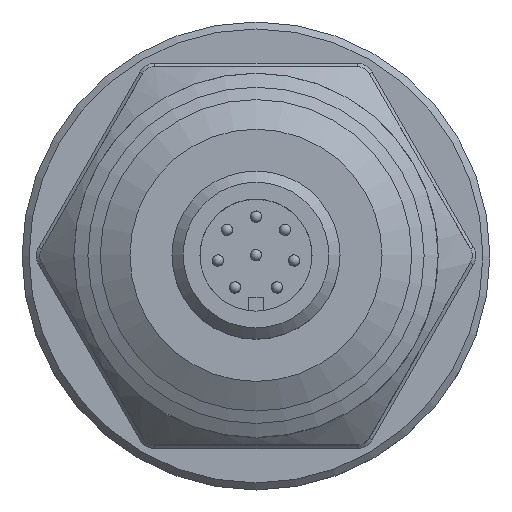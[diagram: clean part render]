
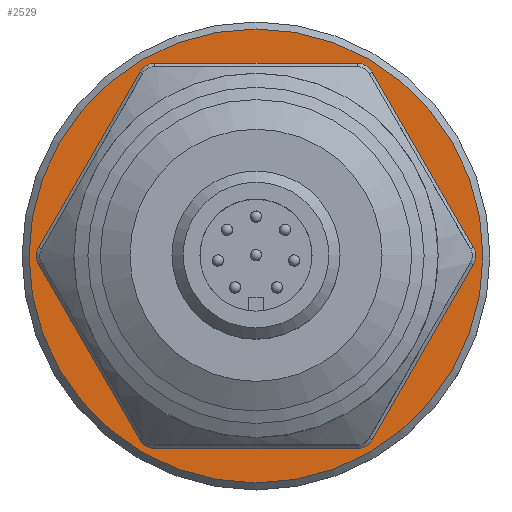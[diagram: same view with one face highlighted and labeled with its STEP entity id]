
A CAD part, top view. The second image highlights one B-rep face of the part: STEP entity #2529.
In plain terms, the highlighted planar face has unit normal (0, 0, 1).
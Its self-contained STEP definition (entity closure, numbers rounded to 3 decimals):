
#210=LINE('',#4559,#372);
#214=LINE('',#4569,#376);
#217=LINE('',#4577,#379);
#219=LINE('',#4583,#381);
#222=LINE('',#4591,#384);
#225=LINE('',#4599,#387);
#372=VECTOR('',#3414,1000.);
#376=VECTOR('',#3424,1000.);
#379=VECTOR('',#3433,1000.);
#381=VECTOR('',#3441,1000.);
#384=VECTOR('',#3450,1000.);
#387=VECTOR('',#3459,1000.);
#522=PLANE('',#2803);
#1051=ORIENTED_EDGE('',*,*,#1478,.F.);
#1052=ORIENTED_EDGE('',*,*,#1476,.T.);
#1053=ORIENTED_EDGE('',*,*,#1475,.F.);
#1054=ORIENTED_EDGE('',*,*,#1473,.T.);
#1055=ORIENTED_EDGE('',*,*,#1471,.F.);
#1056=ORIENTED_EDGE('',*,*,#1469,.T.);
#1057=ORIENTED_EDGE('',*,*,#1467,.F.);
#1058=ORIENTED_EDGE('',*,*,#1464,.T.);
#1059=ORIENTED_EDGE('',*,*,#1462,.F.);
#1060=ORIENTED_EDGE('',*,*,#1484,.T.);
#1061=ORIENTED_EDGE('',*,*,#1482,.F.);
#1062=ORIENTED_EDGE('',*,*,#1480,.T.);
#1063=ORIENTED_EDGE('',*,*,#1485,.T.);
#1462=EDGE_CURVE('',#1725,#1726,#1869,.T.);
#1464=EDGE_CURVE('',#1727,#1726,#210,.T.);
#1467=EDGE_CURVE('',#1727,#1728,#1870,.T.);
#1469=EDGE_CURVE('',#1729,#1728,#214,.T.);
#1471=EDGE_CURVE('',#1729,#1730,#1871,.T.);
#1473=EDGE_CURVE('',#1731,#1730,#217,.T.);
#1475=EDGE_CURVE('',#1731,#1732,#1872,.T.);
#1476=EDGE_CURVE('',#1733,#1732,#219,.T.);
#1478=EDGE_CURVE('',#1733,#1734,#1873,.T.);
#1480=EDGE_CURVE('',#1735,#1734,#222,.T.);
#1482=EDGE_CURVE('',#1735,#1736,#1874,.T.);
#1484=EDGE_CURVE('',#1725,#1736,#225,.T.);
#1485=EDGE_CURVE('',#1737,#1737,#1875,.T.);
#1725=VERTEX_POINT('',#4554);
#1726=VERTEX_POINT('',#4556);
#1727=VERTEX_POINT('',#4560);
#1728=VERTEX_POINT('',#4564);
#1729=VERTEX_POINT('',#4568);
#1730=VERTEX_POINT('',#4572);
#1731=VERTEX_POINT('',#4576);
#1732=VERTEX_POINT('',#4580);
#1733=VERTEX_POINT('',#4584);
#1734=VERTEX_POINT('',#4588);
#1735=VERTEX_POINT('',#4592);
#1736=VERTEX_POINT('',#4596);
#1737=VERTEX_POINT('',#4602);
#1869=CIRCLE('',#2786,1.25);
#1870=CIRCLE('',#2789,1.25);
#1871=CIRCLE('',#2792,1.25);
#1872=CIRCLE('',#2795,1.25);
#1873=CIRCLE('',#2798,1.25);
#1874=CIRCLE('',#2801,1.25);
#1875=CIRCLE('',#2804,16.201);
#2082=EDGE_LOOP('',(#1051,#1052,#1053,#1054,#1055,#1056,#1057,#1058,#1059,
#1060,#1061,#1062));
#2083=EDGE_LOOP('',(#1063));
#2308=FACE_BOUND('',#2082,.T.);
#2309=FACE_BOUND('',#2083,.T.);
#2529=ADVANCED_FACE('',(#2308,#2309),#522,.T.);
#2786=AXIS2_PLACEMENT_3D('',#4555,#3409,#3410);
#2789=AXIS2_PLACEMENT_3D('',#4565,#3419,#3420);
#2792=AXIS2_PLACEMENT_3D('',#4573,#3428,#3429);
#2795=AXIS2_PLACEMENT_3D('',#4581,#3437,#3438);
#2798=AXIS2_PLACEMENT_3D('',#4587,#3445,#3446);
#2801=AXIS2_PLACEMENT_3D('',#4595,#3454,#3455);
#2803=AXIS2_PLACEMENT_3D('',#4600,#3460,#3461);
#2804=AXIS2_PLACEMENT_3D('',#4601,#3462,#3463);
#3409=DIRECTION('',(0.,0.,1.));
#3410=DIRECTION('',(0.,-1.,0.));
#3414=DIRECTION('',(-1.,0.,0.));
#3419=DIRECTION('',(0.,0.,1.));
#3420=DIRECTION('',(0.,-1.,0.));
#3424=DIRECTION('',(-0.5,-0.866,0.));
#3428=DIRECTION('',(0.,0.,1.));
#3429=DIRECTION('',(0.,-1.,0.));
#3433=DIRECTION('',(0.5,-0.866,0.));
#3437=DIRECTION('',(0.,0.,1.));
#3438=DIRECTION('',(0.,-1.,0.));
#3441=DIRECTION('',(1.,0.,0.));
#3445=DIRECTION('',(0.,0.,1.));
#3446=DIRECTION('',(0.,-1.,0.));
#3450=DIRECTION('',(0.5,0.866,0.));
#3454=DIRECTION('',(0.,0.,1.));
#3455=DIRECTION('',(0.,-1.,0.));
#3459=DIRECTION('',(-0.5,0.866,0.));
#3460=DIRECTION('',(0.,0.,1.));
#3461=DIRECTION('',(0.,-1.,0.));
#3462=DIRECTION('',(0.,0.,1.));
#3463=DIRECTION('',(0.,-1.,0.));
#4554=CARTESIAN_POINT('',(-8.299,-13.125,82.75));
#4555=CARTESIAN_POINT('',(-7.217,-12.5,82.75));
#4556=CARTESIAN_POINT('',(-7.217,-13.75,82.75));
#4559=CARTESIAN_POINT('',(0.,-13.75,82.75));
#4560=CARTESIAN_POINT('',(7.217,-13.75,82.75));
#4564=CARTESIAN_POINT('',(8.299,-13.125,82.75));
#4565=CARTESIAN_POINT('',(7.217,-12.5,82.75));
#4568=CARTESIAN_POINT('',(15.516,-0.625,82.75));
#4569=CARTESIAN_POINT('',(11.908,-6.875,82.75));
#4572=CARTESIAN_POINT('',(15.516,0.625,82.75));
#4573=CARTESIAN_POINT('',(14.434,0.,82.75));
#4576=CARTESIAN_POINT('',(8.299,13.125,82.75));
#4577=CARTESIAN_POINT('',(11.908,6.875,82.75));
#4580=CARTESIAN_POINT('',(7.217,13.75,82.75));
#4581=CARTESIAN_POINT('',(7.217,12.5,82.75));
#4583=CARTESIAN_POINT('',(0.,13.75,82.75));
#4584=CARTESIAN_POINT('',(-7.217,13.75,82.75));
#4587=CARTESIAN_POINT('',(-7.217,12.5,82.75));
#4588=CARTESIAN_POINT('',(-8.299,13.125,82.75));
#4591=CARTESIAN_POINT('',(-11.908,6.875,82.75));
#4592=CARTESIAN_POINT('',(-15.516,0.625,82.75));
#4595=CARTESIAN_POINT('',(-14.434,0.,82.75));
#4596=CARTESIAN_POINT('',(-15.516,-0.625,82.75));
#4599=CARTESIAN_POINT('',(-11.908,-6.875,82.75));
#4600=CARTESIAN_POINT('',(0.,0.,82.75));
#4601=CARTESIAN_POINT('',(0.,0.,82.75));
#4602=CARTESIAN_POINT('',(0.,-16.201,82.75));
